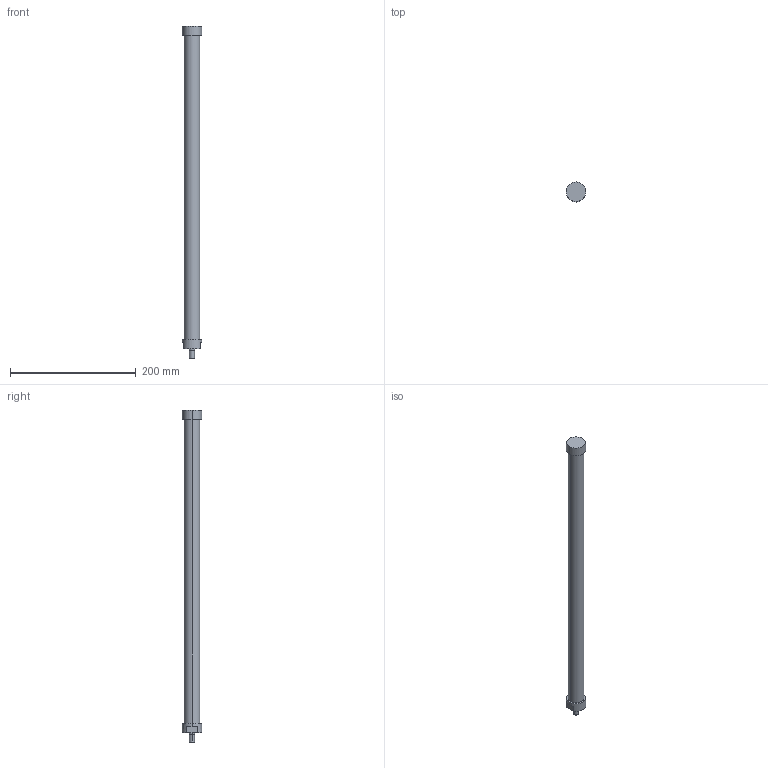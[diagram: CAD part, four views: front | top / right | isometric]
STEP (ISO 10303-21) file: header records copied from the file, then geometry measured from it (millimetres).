
FILE_DESCRIPTION(('STEP AP214'),'1');
FILE_NAME('ETT-R050M524.stp','2015-02-02T15:17:28',(' '),(' '),'Spatial InterOp 3D',' ',' ');
FILE_SCHEMA(('automotive_design'));
Length unit declared in the file: metre
Products named in the file (2): 1; 2
Bounding box: 31 x 31 x 529 mm (x, y, z)
Volume: 260407.5 mm3; surface area: 43606.4 mm2
Topology: 1 solids, 4 shells, 20 faces, 48 edges, 36 vertices
Faces by surface type: cylinder 10, plane 10
Entity records: 812 total; most frequent: DIRECTION 120, CARTESIAN_POINT 106, ORIENTED_EDGE 84, AXIS2_PLACEMENT_3D 50, EDGE_CURVE 48, VERTEX_POINT 36, CIRCLE 28, EDGE_LOOP 24
